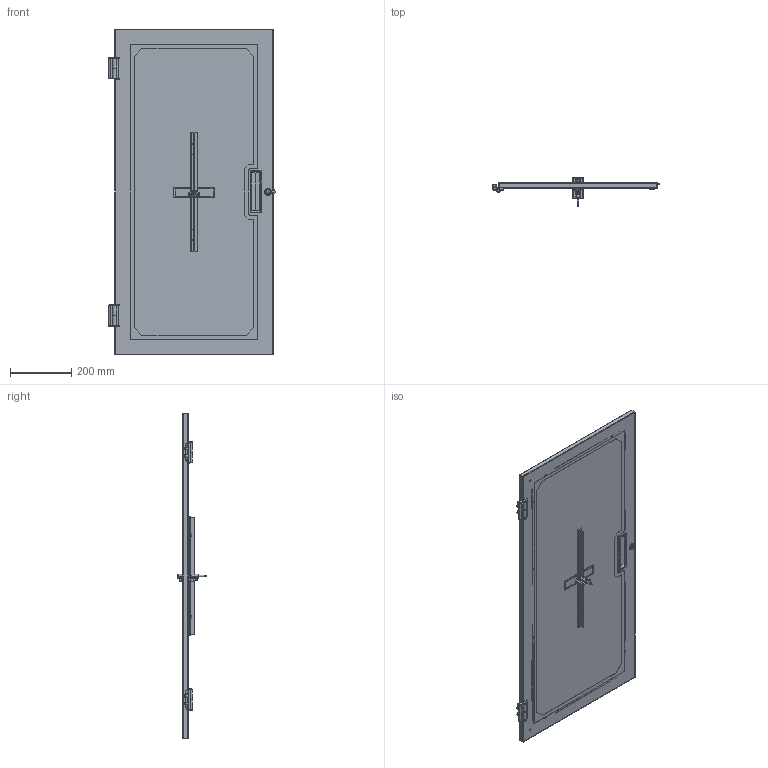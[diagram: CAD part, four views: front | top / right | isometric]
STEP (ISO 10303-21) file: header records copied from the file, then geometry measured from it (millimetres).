
FILE_DESCRIPTION( ( 'Unknown' ), '1' );
FILE_NAME( 'Q:/C4/WEB DRAWINGS/C4DF/STEP/C4DF2442P.stp', 'Unknown', ( 'Unknown' ), ( 'Unknown' ), 'PSStep 11.0', 'Unknown', ' ' );
FILE_SCHEMA( ( 'AUTOMOTIVE_DESIGN { 1 0 10303 214 1 1 1 1 }' ) );
Length unit declared in the file: inch
Products named in the file (29): COM55532-9; HNG14591; Assem1; HNG14591-1; HNG14591-1-oa0; HNG14591-2; HNG14591-2-oa1; HNG14591-3; HNG14591-4; std26020; std26020-oa2; std26020-oa3; std26020-oa4; std26020-oa5; std26020-oa6; std26020-oa7; std26020-oa8; std26020-oa9; std26020-oa10; std26020-oa11; std26020-oa12; std26020-oa13; std26020-oa14; HAN13044; LOC13312; COM54241; COM54438; COM55533-9
Bounding box: 542.49 x 95.1 x 1062.05 mm (x, y, z)
Volume: 6485359.1 mm3; surface area: 3525457 mm2
Topology: 83 solids, 83 shells, 3088 faces, 7138 edges, 4638 vertices
Faces by surface type: plane 2098, cylinder 784, cone 92, bspline 58, torus 56
Full cylindrical faces by diameter (mm): 4.775 x42, 6 x8, 6.1 x8, 6.2 x16, 6.35 x42, 8.382 x2, 9.95 x16, 10.312 x12, 13.868 x2, 13.97 x2, 21.996 x2
Entity records: 31978 total; most frequent: CARTESIAN_POINT 5300, DIRECTION 4187, ORIENTED_EDGE 3770, EDGE_CURVE 1885, AXIS2_PLACEMENT_3D 1488, VERTEX_POINT 1260, LINE 1211, VECTOR 1211
